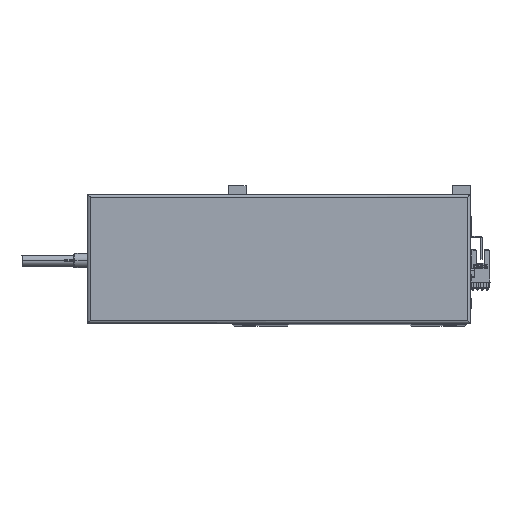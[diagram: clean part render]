
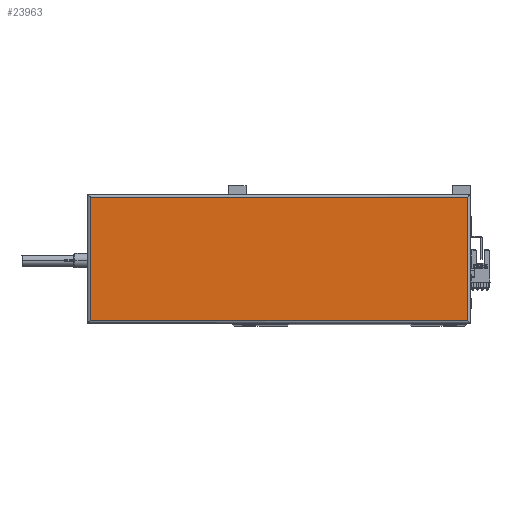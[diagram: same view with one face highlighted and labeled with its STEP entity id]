
A CAD part, top view. The second image highlights one B-rep face of the part: STEP entity #23963.
In plain terms, the highlighted planar face has unit normal (0, 0, 1).
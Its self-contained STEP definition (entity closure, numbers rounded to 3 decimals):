
#2187 = EDGE_LOOP ( 'NONE', ( #29100, #40052, #28962, #46574 ) ) ;
#4486 = VECTOR ( 'NONE', #19803, 1000. ) ;
#4503 = LINE ( 'NONE', #47815, #44019 ) ;
#5113 = DIRECTION ( 'NONE',  ( 0., 0., 1. ) ) ;
#6371 = VERTEX_POINT ( 'NONE', #49173 ) ;
#7760 = EDGE_CURVE ( 'NONE', #6371, #7841, #36689, .T. ) ;
#7841 = VERTEX_POINT ( 'NONE', #42553 ) ;
#9043 = CARTESIAN_POINT ( 'NONE',  ( 265., 88., 44.8 ) ) ;
#9096 = AXIS2_PLACEMENT_3D ( 'NONE', #12605, #5113, #24305 ) ;
#12605 = CARTESIAN_POINT ( 'NONE',  ( 133.5, 45., 44.8 ) ) ;
#16838 = VECTOR ( 'NONE', #37883, 1000. ) ;
#19803 = DIRECTION ( 'NONE',  ( 0., -1., 0. ) ) ;
#23963 = ADVANCED_FACE ( 'NONE', ( #38016 ), #35677, .T. ) ;
#24305 = DIRECTION ( 'NONE',  ( 1., 0., 0. ) ) ;
#24782 = CARTESIAN_POINT ( 'NONE',  ( 265., 90., 44.8 ) ) ;
#27414 = CARTESIAN_POINT ( 'NONE',  ( 2., 0., 44.8 ) ) ;
#28962 = ORIENTED_EDGE ( 'NONE', *, *, #7760, .T. ) ;
#29100 = ORIENTED_EDGE ( 'NONE', *, *, #49746, .T. ) ;
#30687 = EDGE_CURVE ( 'NONE', #33853, #6371, #37498, .T. ) ;
#31942 = LINE ( 'NONE', #24782, #40482 ) ;
#32266 = DIRECTION ( 'NONE',  ( 1., 0., 0. ) ) ;
#33203 = EDGE_CURVE ( 'NONE', #7841, #38729, #4503, .T. ) ;
#33853 = VERTEX_POINT ( 'NONE', #9043 ) ;
#35677 = PLANE ( 'NONE',  #9096 ) ;
#36689 = LINE ( 'NONE', #27414, #4486 ) ;
#37498 = LINE ( 'NONE', #41459, #16838 ) ;
#37883 = DIRECTION ( 'NONE',  ( -1., 0., 0. ) ) ;
#38016 = FACE_OUTER_BOUND ( 'NONE', #2187, .T. ) ;
#38593 = CARTESIAN_POINT ( 'NONE',  ( 265., 2., 44.8 ) ) ;
#38729 = VERTEX_POINT ( 'NONE', #38593 ) ;
#40052 = ORIENTED_EDGE ( 'NONE', *, *, #30687, .T. ) ;
#40072 = DIRECTION ( 'NONE',  ( 0., 1., 0. ) ) ;
#40482 = VECTOR ( 'NONE', #40072, 1000. ) ;
#41459 = CARTESIAN_POINT ( 'NONE',  ( 0., 88., 44.8 ) ) ;
#42553 = CARTESIAN_POINT ( 'NONE',  ( 2., 2., 44.8 ) ) ;
#44019 = VECTOR ( 'NONE', #32266, 1000. ) ;
#46574 = ORIENTED_EDGE ( 'NONE', *, *, #33203, .T. ) ;
#47815 = CARTESIAN_POINT ( 'NONE',  ( 267., 2., 44.8 ) ) ;
#49173 = CARTESIAN_POINT ( 'NONE',  ( 2., 88., 44.8 ) ) ;
#49746 = EDGE_CURVE ( 'NONE', #38729, #33853, #31942, .T. ) ;
